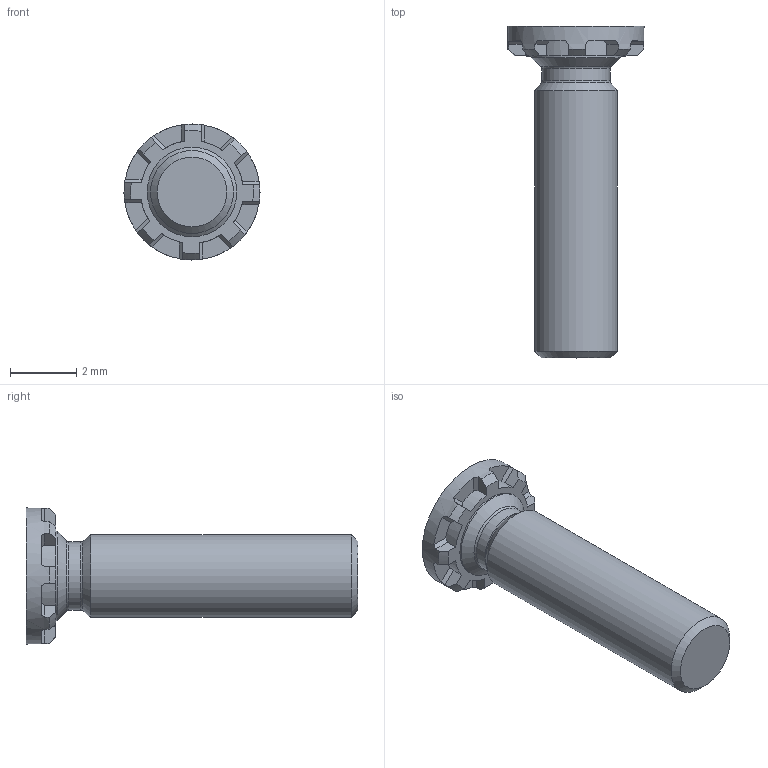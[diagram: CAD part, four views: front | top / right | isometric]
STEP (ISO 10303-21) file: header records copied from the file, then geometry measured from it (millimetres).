
FILE_DESCRIPTION(/* description */ (''),/* implementation_level */ '2;1');
FILE_NAME(/* name */ 'C:\Users\keval.kumar\Desktop\Fastit\Clinch Screw- FH Range\M2.5\Clinch Screw-FH Range_M2.5x10.stp',/* time_stamp */ '2024-03-12T11:46:04+05:00',/* author */ ('keval.kumar'),/* organization */ (''),/* preprocessor_version */ 'ST-DEVELOPER v18.1',/* originating_system */ 'Autodesk Inventor 2022',/* authorisation */ '');
FILE_SCHEMA (('AUTOMOTIVE_DESIGN { 1 0 10303 214 3 1 1 }'));
Length unit declared in the file: millimetre
Products named in the file (1): Clinch Screw-FH Range_M2.5x10
Bounding box: 4.1 x 10 x 4.1 mm (x, y, z)
Volume: 53.7 mm3; surface area: 109.4 mm2
Topology: 1 solids, 1 shells, 68 faces, 193 edges, 128 vertices
Faces by surface type: plane 43, cylinder 12, cone 11, torus 2
Full cylindrical faces by diameter (mm): 2.05 x1, 2.5 x1, 2.7 x1, 4.1 x1
Entity records: 2278 total; most frequent: CARTESIAN_POINT 422, DIRECTION 405, ORIENTED_EDGE 386, EDGE_CURVE 193, AXIS2_PLACEMENT_3D 159, VERTEX_POINT 128, LINE 87, VECTOR 87
